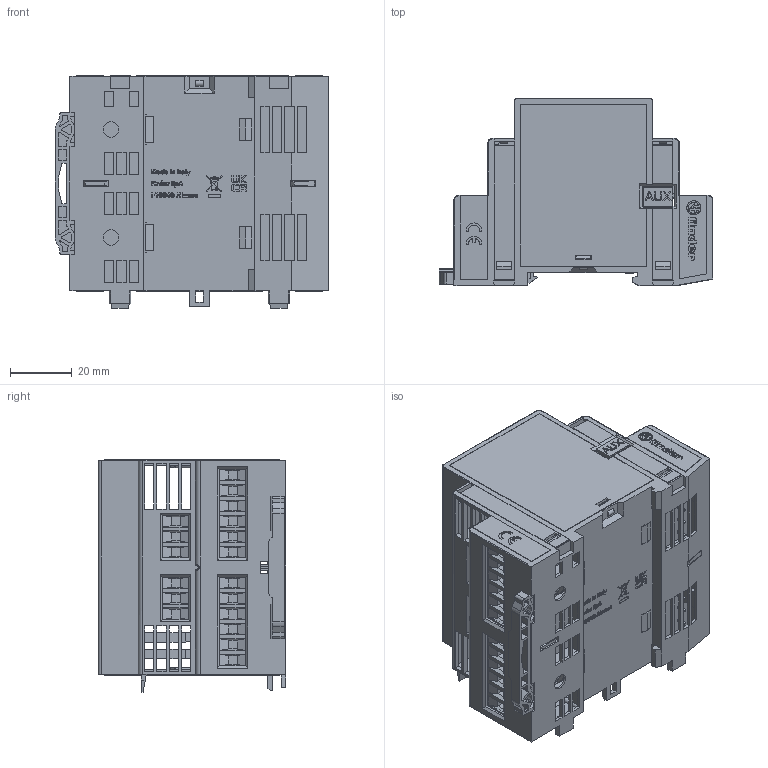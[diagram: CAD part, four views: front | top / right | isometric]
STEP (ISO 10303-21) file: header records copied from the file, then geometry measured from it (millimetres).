
FILE_DESCRIPTION(/* description */ ('Unknown'),/* implementation_level */ '2;1');
FILE_NAME(/* name */ '8A26 catalogo',/* time_stamp */ '2024-04-09T13:10:03+02:00',/* author */ ('Unknown'),/* organization */ ('Unknown'),/* preprocessor_version */ 'ST-DEVELOPER v18.102',/* originating_system */ 'Solid Edge',/* authorisation */ 'Unknown');
FILE_SCHEMA (('AUTOMOTIVE_DESIGN {1 0 10303 214 3 1 1}'));
Products named in the file (1): 8A26
Bounding box: 88.85 x 60.8 x 75.5 mm (x, y, z)
Volume: 67552.2 mm3; surface area: 94056.7 mm2
Topology: 1 solids, 1 shells, 4961 faces, 13856 edges, 9150 vertices
Faces by surface type: plane 4225, cylinder 614, bspline 68, cone 36, torus 17, sphere 1
Full cylindrical faces by diameter (mm): 0.2 x1, 0.222 x3, 0.364 x1, 0.374 x2, 0.4 x1, 0.429 x5, 0.6 x6, 1.5 x2, 2.6 x28, 2.85 x28, 3 x4, 3.8 x28, 4.564 x1, 5 x2
Entity records: 194504 total; most frequent: CARTESIAN_POINT 32376, ORIENTED_EDGE 27198, DIRECTION 24259, EDGE_CURVE 13599, LINE 11683, VECTOR 11683, VERTEX_POINT 9047, AXIS2_PLACEMENT_3D 6288
